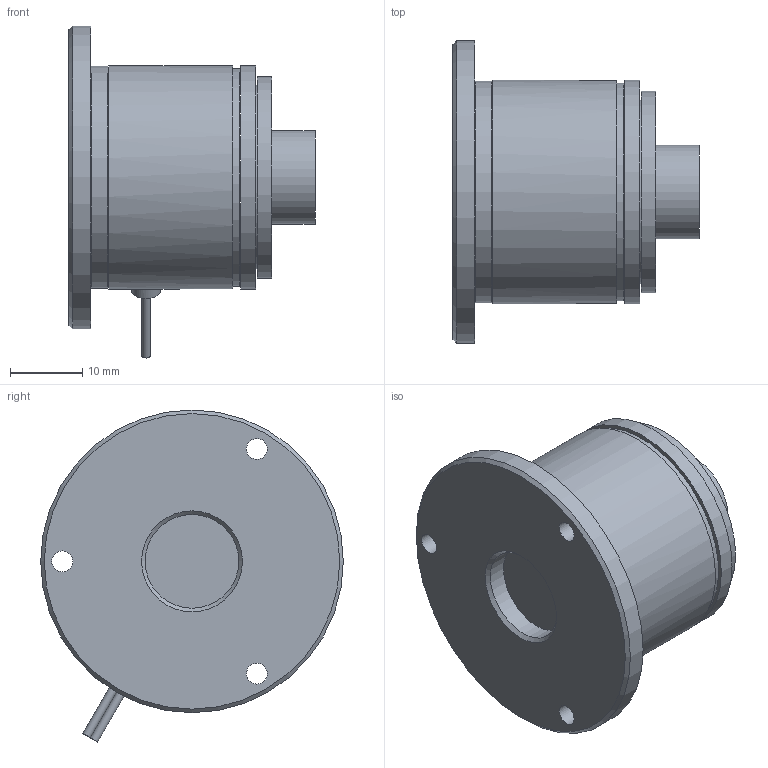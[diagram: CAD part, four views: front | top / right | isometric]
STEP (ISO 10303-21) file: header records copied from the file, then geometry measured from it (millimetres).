
FILE_DESCRIPTION(/* description */ (''),/* implementation_level */ '2;1');
FILE_NAME(/* name */ 'G:\Zeichnungsarchiv\3D-Modelle\PM 03\PM 03 Bauform 1\14.120.03.101-001_3D Modell_8 mm.stp',/* time_stamp */ '2013-07-11T14:17:52+02:00',/* author */ ('thomas.schoettelndre'),/* organization */ (''),/* preprocessor_version */ 'ST-DEVELOPER v15.2',/* originating_system */ 'Autodesk Inventor 2014',/* authorisation */ '');
FILE_SCHEMA (('AUTOMOTIVE_DESIGN { 1 0 10303 214 3 1 1 }'));
Length unit declared in the file: centimetre
Products named in the file (1): 14.120.03
Bounding box: 34.15 x 42 x 46.06 mm (x, y, z)
Volume: 21221.7 mm3; surface area: 12581.7 mm2
Topology: 3 solids, 3 shells, 284 faces, 792 edges, 515 vertices
Faces by surface type: cylinder 134, plane 112, cone 16, bspline 14, torus 8
Full cylindrical faces by diameter (mm): 2.5 x6, 2.9 x3, 3 x2, 3.7 x2, 4 x1, 5.5 x2, 8 x1, 13 x2, 18 x2, 20 x1, 25 x1, 25.5 x1, 28 x2, 30.8 x1, 31 x2, 42 x1
Entity records: 10011 total; most frequent: CARTESIAN_POINT 2469, ORIENTED_EDGE 1478, DIRECTION 1468, EDGE_CURVE 739, AXIS2_PLACEMENT_3D 578, VERTEX_POINT 502, EDGE_LOOP 387, LINE 312
